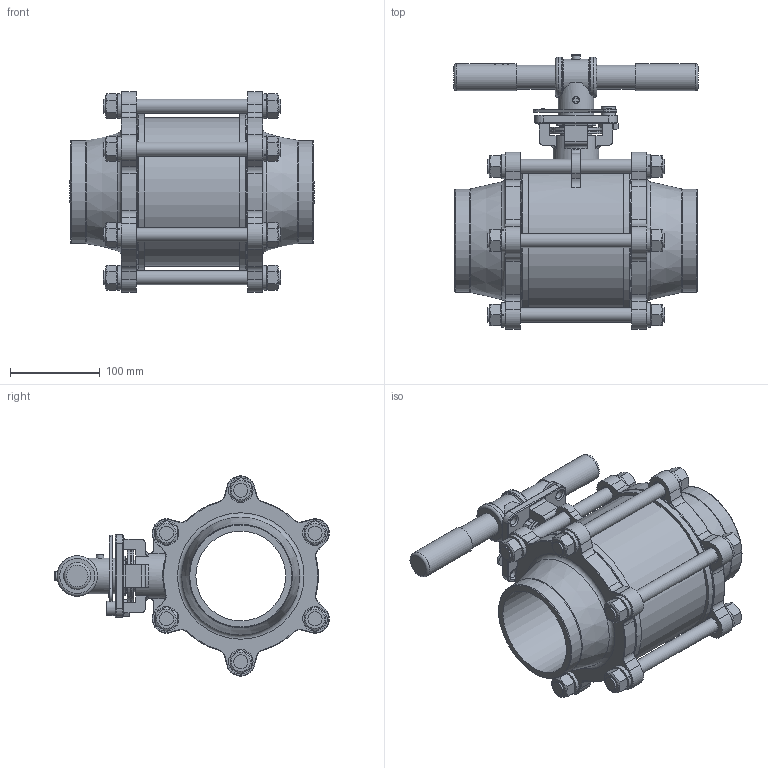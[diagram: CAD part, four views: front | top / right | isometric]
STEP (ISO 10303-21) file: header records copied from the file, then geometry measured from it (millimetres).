
FILE_DESCRIPTION((''),'2;1');
FILE_NAME('K:\Inventor\1 Artikel\11) Muffen-Kugelhähne\11a) manuell\Econosto\470-VABW, 7644ISO\470-VABW, DN100\470-VABW, DN100, 3D\470-VABW, DN100, PN50, HH, 3D.stp','2019-11-07T15:05:07',('claudia'),(''),'Autodesk Inventor 2013','Autodesk Inventor 2013','');
FILE_SCHEMA(('AUTOMOTIVE_DESIGN { 1 0 10303 214 1 1 1 1 }'));
Length unit declared in the file: millimetre
Products named in the file (1): Bauteil1
Bounding box: 272 x 306.16 x 223.09 mm (x, y, z)
Volume: 3540002 mm3; surface area: 433019.1 mm2
Topology: 7 solids, 8 shells, 1682 faces, 4368 edges, 2808 vertices
Faces by surface type: plane 757, bspline 478, cylinder 294, torus 113, cone 40
Full cylindrical faces by diameter (mm): 8 x1, 10 x2, 10.506 x5, 15.72 x18, 16 x1, 17.2 x2, 17.5 x12, 26.6 x2, 30 x2, 36.5 x1, 40 x2, 45 x2, 51 x1, 57.16 x2, 64 x1, 100 x1, 115 x2, 166 x1, 173 x2
Entity records: 170638 total; most frequent: CARTESIAN_POINT 132409, ORIENTED_EDGE 8378, DIRECTION 5932, EDGE_CURVE 4189, VERTEX_POINT 2762, AXIS2_PLACEMENT_3D 2048, EDGE_LOOP 1967, VECTOR 1836
